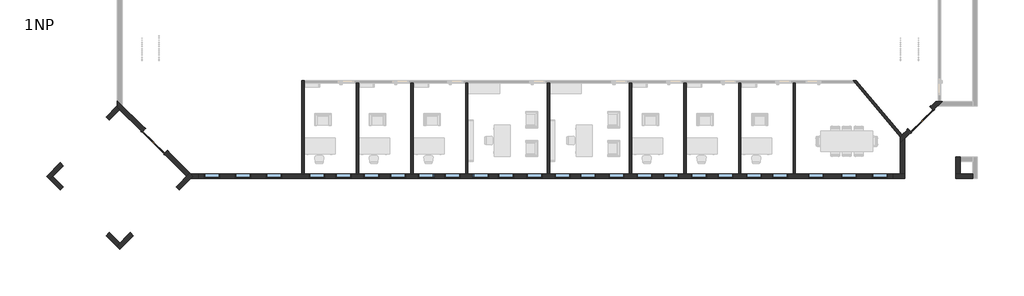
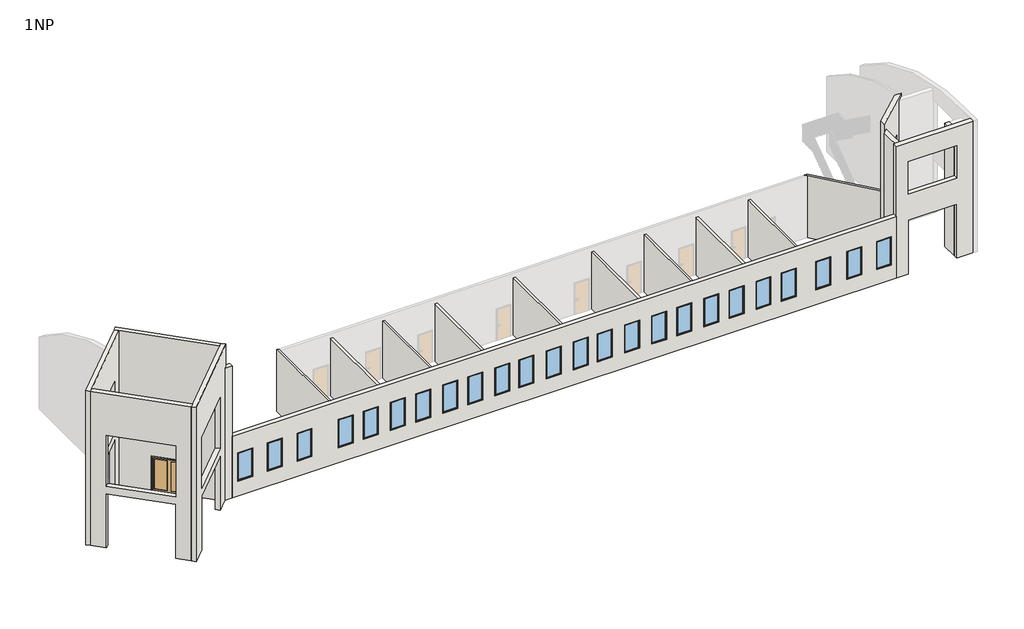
# One storey, part 1 of 2: 24 windows, 20 walls, 2 doors.
"""IFC4 building model written with IfcOpenShell, lengths in millimetres."""

from ifc_helpers import new_model, si_unit, frame, origin, origin_with_axes, place, context, project, spatial, polyline, circle_curve, ellipse_curve, outline, extrude, faceted_brep, transform, mapped, element, save
from ifc_brep_helpers import plane_surface, cylinder_surface, advanced_brep
from components import door_1800_x_1970mm_ce9160c6, door_1800_x_1970mm_3c2632e2, window_0915_x_1830mm_7ee91fd3

model = new_model("IFC4")

# Units and contexts
model_context = context("Model", 3, world=origin())
ifc_project = project(units=[si_unit("LENGTHUNIT", "METRE", prefix="MILLI")], contexts=[model_context])

# Site, building, storey
site = spatial("IfcSite", under=ifc_project)
building = spatial("IfcBuilding", under=site)
storey = spatial("IfcBuildingStorey", under=building, Name="1NP", Elevation=0.0)

# Doors
placement = place(None, origin())
door_1800_x_1970mm_shape = door_1800_x_1970mm_ce9160c6(model_context)
element("IfcDoor", 1, ObjectType="Dvoukridle prosklene : 1800 x 1970mm", at=placement, inside=storey, context=model_context, shape_type="MappedRepresentation", body=[
    mapped(door_1800_x_1970mm_shape, transform((-9492.0310093, -2706.151406, 0.0), x_axis=(-0.7071067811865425, 0.7071067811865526, 0.0), y_axis=(-0.7071067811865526, -0.7071067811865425, 0.0), z_axis=(0.0, 0.0, 1.0))),
])
door_1800_x_1970mm_2_shape = door_1800_x_1970mm_3c2632e2(model_context)
element("IfcDoor", 2, ObjectType="Dvoukridle prosklene : 1800 x 1970mm", at=placement, inside=storey, context=model_context, shape_type="MappedRepresentation", body=[
    mapped(door_1800_x_1970mm_2_shape, transform((35397.5898577, -1433.3591998, 0.0), x_axis=(0.7071067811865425, 0.7071067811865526, 0.0), y_axis=(-0.7071067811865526, 0.7071067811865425, 0.0), z_axis=(0.0, 0.0, 1.0))),
])

# Walls
element("IfcWall", 3, ObjectType="Exterior - EIFS on Mtl. Stud", at=placement, inside=storey, context=model_context, shape_type="AdvancedBrep", body=[
    advanced_brep(
    [(38455.6755273, -4624.9448694, 0.0), (37722.6755273, -4624.9448694, 0.0), (37455.6755273, -4624.9448694, 0.0), (37455.6755273, -4624.9448694, 3500.0), (34472.6755273, -4624.9448694, 3500.0), (34472.6755273, -4624.9448694, 0.0), (34205.6755273, -4624.9448694, 0.0), (33755.6755273, -4624.9448694, 0.0), (33755.6755273, -4624.9448694, 4000.0), (33755.6755273, -4624.9448694, 8000.0), (33755.6755273, -4624.9448694, 8556.4380679), (38455.6755273, -4624.9448694, 8556.4380679), (37455.6755273, -4624.9448694, 7300.0), (34472.6755273, -4624.9448694, 7300.0), (34472.6755273, -4624.9448694, 5200.0), (37455.6755273, -4624.9448694, 5200.0), (38455.6755273, -4891.9448694, 0.0), (38455.6755273, -4891.9448694, 8541.7849302), (33755.6755273, -4891.9448694, 8541.7849302), (33755.6755273, -4891.9448694, 8000.0), (33755.6755273, -4891.9448694, 4000.0), (33755.6755273, -4891.9448694, 0.0), (34472.6755273, -4891.9448694, 0.0), (34472.6755273, -4891.9448694, 3500.0), (37455.6755273, -4891.9448694, 3500.0), (37455.6755273, -4891.9448694, 0.0), (37455.6755273, -4891.9448694, 7300.0), (37455.6755273, -4891.9448694, 5200.0), (34472.6755273, -4891.9448694, 5200.0), (34472.6755273, -4891.9448694, 7300.0)],
    [
        (0, 1),
        (1, 2),
        (2, 3),
        (3, 4),
        (4, 5),
        (5, 6),
        (6, 7),
        (7, 8),
        (8, 9),
        (9, 10),
        (10, 11),
        (11, 0),
        (12, 13),
        (13, 14),
        (14, 15),
        (15, 12),
        (16, 17),
        (17, 18),
        (18, 19),
        (19, 20),
        (20, 21),
        (21, 22),
        (22, 23),
        (23, 24),
        (24, 25),
        (25, 16),
        (26, 27),
        (27, 28),
        (28, 29),
        (29, 26),
        (0, 16),
        (25, 2),
        (3, 24),
        (23, 4),
        (22, 5),
        (21, 7),
        (12, 26),
        (29, 13),
        (14, 28),
        (27, 15),
        (18, 10, circle_curve(frame((33755.6755273, -3782.5530793, -9232.9575956), z_axis=(-1.0, 0.0, 0.0), x_axis=(0.0, -1.0, 0.0)), 17809.3296337)),
        (11, 17, circle_curve(frame((38455.6755273, -3782.5530793, -9232.9575956), z_axis=(1.0, 0.0, 0.0), x_axis=(0.0, -1.0, 0.0)), 17809.3296337)),
    ],
    [
        plane_surface(frame((12455.6755273, -4624.9448694, 0.0), z_axis=(0.0, 1.0, 0.0), x_axis=(-1.0, 0.0, 0.0))),
        plane_surface(frame((12455.6755273, -4891.9448694, 0.0), z_axis=(0.0, -1.0, 0.0), x_axis=(1.0, 0.0, 0.0))),
        plane_surface(frame((38589.1755273, -4624.9448694, 0.0), z_axis=(0.0, 0.0, -1.0), x_axis=(0.0, -1.0, 0.0))),
        plane_surface(frame((37589.1755273, -4624.9448694, 3500.0), z_axis=(0.0, 0.0, -1.0), x_axis=(0.0, -1.0, 0.0))),
        plane_surface(frame((34472.6755273, -4624.9448694, 3500.0), z_axis=(1.0, 0.0, 0.0), x_axis=(0.0, -1.0, 0.0))),
        plane_surface(frame((34472.6755273, -4624.9448694, 0.0), z_axis=(0.0, 0.0, -1.0), x_axis=(0.0, -1.0, 0.0))),
        plane_surface(frame((37589.1755273, -4624.9448694, 7300.0), z_axis=(0.0, 0.0, -1.0), x_axis=(0.0, -1.0, 0.0))),
        plane_surface(frame((34339.1755273, -4624.9448694, 5200.0), z_axis=(0.0, 0.0, 1.0), x_axis=(0.0, -1.0, 0.0))),
        plane_surface(frame((33755.6755273, -4624.9448694, 0.0), z_axis=(-1.0, 0.0, 0.0), x_axis=(0.0, -1.0, 0.0))),
        plane_surface(frame((34472.6755273, -4758.4448694, 0.0), z_axis=(1.0, 0.0, 0.0), x_axis=(0.0, 1.0, 0.0))),
        plane_surface(frame((37455.6755273, -4758.4448694, 0.0), z_axis=(-1.0, 0.0, 0.0), x_axis=(0.0, -1.0, 0.0))),
        plane_surface(frame((38455.6755273, 5741.5551306, 0.0), z_axis=(1.0, 0.0, 0.0), x_axis=(0.0, -1.0, 0.0))),
        cylinder_surface(frame((39922.6755273, -3782.5530793, -9232.9575956), z_axis=(1.0, 0.0, 0.0), x_axis=(0.0, -1.0, 0.0)), 17809.3296337),
    ],
    [
        (0, [[1, 2, 3, 4, 5, 6, 7, 8, 9, 10, 11, 12], [13, 14, 15, 16]]),
        (1, [[17, 18, 19, 20, 21, 22, 23, 24, 25, 26], [27, 28, 29, 30]]),
        (2, [[-2, -1, 31, -26, 32]]),
        (3, [[-4, 33, -24, 34]]),
        (4, [[-5, -34, -23, 35]]),
        (5, [[-7, -6, -35, -22, 36]]),
        (6, [[-13, 37, -30, 38]]),
        (7, [[-15, 39, -28, 40]]),
        (8, [[-36, -21, -20, -19, 41, -10, -9, -8]]),
        (9, [[-14, -38, -29, -39]]),
        (10, [[-3, -32, -25, -33]]),
        (10, [[-16, -40, -27, -37]]),
        (11, [[-12, 42, -17, -31]]),
        (12, [[-11, -41, -18, -42]]),
    ],
),
])
element("IfcWall", 4, ObjectType="Exterior - EIFS on Mtl. Stud", at=placement, inside=storey, context=model_context, shape_type="AdvancedBrep", body=[
    advanced_brep(
    [(-6943.1051418, -4624.9448694, 0.0), (-7387.8076313, -4624.9448694, 0.0), (-7387.8076313, -4624.9448694, 8556.4380679), (-6943.1051418, -4624.9448694, 8556.4380679), (-6943.1051418, -4891.9448694, 0.0), (-6943.1051418, -4891.9448694, 8541.7849302), (-7387.8076313, -4891.9448694, 8541.7849302), (-7387.8076313, -4891.9448694, 0.0), (-7254.3076313, -4758.4448694, 0.0), (-7254.3076313, -4758.4448694, 8549.6141311)],
    [
        (0, 1),
        (1, 2),
        (2, 3),
        (3, 0),
        (4, 5),
        (5, 6),
        (6, 7),
        (7, 4),
        (0, 4),
        (7, 8),
        (8, 1),
        (3, 5, circle_curve(frame((-6943.1051418, -3782.5530793, -9232.9575956), z_axis=(1.0, 0.0, 0.0), x_axis=(0.0, -1.0, 0.0)), 17809.3296337)),
        (8, 9),
        (9, 2, ellipse_curve(frame((-8230.1994214, -3782.5530793, -9232.9575956), z_axis=(-0.7071067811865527, -0.7071067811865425, 0.0), x_axis=(0.7071067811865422, -0.7071067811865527, 0.0)), 25186.1955048, 17809.3296337)),
        (6, 9, ellipse_curve(frame((-6278.4158411, -3782.5530793, -9232.9575956), z_axis=(-0.7071067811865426, 0.7071067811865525, 0.0), x_axis=(0.7071067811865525, 0.7071067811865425, 0.0)), 25186.1955048, 17809.3296337)),
    ],
    [
        plane_surface(frame((12455.6755273, -4624.9448694, 0.0), z_axis=(0.0, 1.0, 0.0), x_axis=(-1.0, 0.0, 0.0))),
        plane_surface(frame((12455.6755273, -4891.9448694, 0.0), z_axis=(0.0, -1.0, 0.0), x_axis=(1.0, 0.0, 0.0))),
        plane_surface(frame((-6943.1051418, -4624.9448694, 0.0), z_axis=(0.0, 0.0, -1.0), x_axis=(0.0, -1.0, 0.0))),
        plane_surface(frame((-6943.1051418, -4624.9448694, 4000.0), z_axis=(1.0, 0.0, 0.0), x_axis=(0.0, -1.0, 0.0))),
        plane_surface(frame((-9352.1166743, -2660.6358263, -427.8219034), z_axis=(-0.7071067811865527, -0.7071067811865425, 0.0), x_axis=(0.7071067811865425, -0.7071067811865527, 0.0))),
        plane_surface(frame((-9352.1166743, -6856.2539125, -427.8219034), z_axis=(-0.7071067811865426, 0.7071067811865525, 0.0), x_axis=(-0.7071067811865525, -0.7071067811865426, 0.0))),
        cylinder_surface(frame((39922.6755273, -3782.5530793, -9232.9575956), z_axis=(1.0, 0.0, 0.0), x_axis=(0.0, -1.0, 0.0)), 17809.3296337),
    ],
    [
        (0, [[1, 2, 3, 4]]),
        (1, [[5, 6, 7, 8]]),
        (2, [[-1, 9, -8, 10, 11]]),
        (3, [[-4, 12, -5, -9]]),
        (4, [[-2, -11, 13, 14]]),
        (5, [[-10, -7, 15, -13]]),
        (6, [[-3, -14, -15, -6, -12]]),
    ],
),
])
element("IfcWall", 5, ObjectType="Exterior - EIFS on Mtl. Stud", at=placement, inside=storey, context=model_context, shape_type="Brep", body=[
    faceted_brep([(37722.6755273, -4624.9448694, 8000.0), (37722.6755273, -4624.9448694, 0.0), (37722.6755273, -3891.9448694, 0.0), (37722.6755273, -3624.9448694, 0.0), (37722.6755273, -3624.9448694, 8000.0), (37722.6755273, -3891.9448694, 8000.0), (37455.6755273, -4624.9448694, 0.0), (37455.6755273, -4624.9448694, 3500.0), (37455.6755273, -4624.9448694, 5200.0), (37455.6755273, -4624.9448694, 7300.0), (37455.6755273, -4624.9448694, 8000.0), (37455.6755273, -3624.9448694, 8000.0), (37455.6755273, -3624.9448694, 0.0)], [[[0, 1, 2, 3, 4, 5]], [[6, 7, 8, 9, 10, 11, 12]], [[3, 2, 1, 6, 12]], [[0, 5, 4, 11, 10]], [[4, 3, 12, 11]], [[0, 10, 9, 8, 7, 6, 1]]]),
])
element("IfcWall", 6, ObjectType="Exterior - EIFS on Mtl. Stud", at=placement, inside=storey, context=model_context, shape_type="AdvancedBrep", body=[
    advanced_brep(
    [(36270.5742736, -374.9448694, 0.0), (35951.8776052, -693.6415378, 0.0), (35951.8776052, -693.6415378, 2134.0), (34657.8721956, -1987.6469473, 2134.0), (34657.8721956, -1987.6469473, 0.0), (34302.1897841, -2343.3293589, 0.0), (34205.6755273, -2439.8436157, 0.0), (34205.6755273, -2439.8436157, 4000.0), (34205.6755273, -2439.8436157, 8000.0), (34205.6755273, -2439.8436157, 8525.6840557), (36270.5742736, -374.9448694, 8247.3292525), (35823.8290879, -821.6900551, 4000.0), (35823.8290879, -821.6900551, 6134.0), (34529.8236783, -2115.6954646, 6134.0), (34529.8236783, -2115.6954646, 4000.0), (36140.6751158, -882.4390484, 2134.0), (36140.6751158, -882.4390484, 0.0), (36381.1692947, -641.9448694, 0.0), (36648.1692947, -374.9448694, 0.0), (36648.1692947, -374.9448694, 8000.0), (36648.1692947, -374.9448694, 8247.3292525), (34205.6755273, -2817.4386368, 8550.2023068), (34205.6755273, -2817.4386368, 8000.0), (34205.6755273, -2817.4386368, 0.0), (34472.6755273, -2550.4386368, 0.0), (34846.6697062, -2176.4444579, 0.0), (34846.6697062, -2176.4444579, 2134.0), (36012.6265985, -1010.4875656, 4000.0), (34718.6211889, -2304.4929752, 4000.0), (34718.6211889, -2304.4929752, 6134.0), (36012.6265985, -1010.4875656, 6134.0), (36419.9255273, -374.9448694, 0.0), (36558.4255273, -374.9448694, 0.0), (34205.6755273, -2443.7758967, 0.0), (36419.9255273, -374.9448694, 8247.3292525), (36558.4255273, -374.9448694, 8247.3292525)],
    [
        (0, 1),
        (1, 2),
        (2, 3),
        (3, 4),
        (4, 5),
        (5, 6),
        (6, 7),
        (7, 8),
        (8, 9),
        (9, 10, ellipse_curve(frame((32862.9660637, -3782.5530793, -9232.9575956), z_axis=(-0.7071067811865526, 0.7071067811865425, 0.0), x_axis=(0.7071067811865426, 0.7071067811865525, 0.0)), 25186.1955048, 17809.3296337)),
        (10, 0),
        (11, 12),
        (12, 13),
        (13, 14),
        (14, 11),
        (15, 16),
        (16, 17),
        (17, 18),
        (18, 19),
        (19, 20),
        (20, 21, ellipse_curve(frame((33240.5610849, -3782.5530793, -9232.9575956), z_axis=(0.7071067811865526, -0.7071067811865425, 0.0), x_axis=(0.7071067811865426, 0.7071067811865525, 0.0)), 25186.1955048, 17809.3296337)),
        (21, 22),
        (22, 23),
        (23, 24),
        (24, 25),
        (25, 26),
        (26, 15),
        (27, 28),
        (28, 29),
        (29, 30),
        (30, 27),
        (16, 1),
        (0, 31),
        (31, 32),
        (32, 18),
        (23, 33),
        (33, 6),
        (4, 25),
        (10, 34),
        (34, 35),
        (35, 20),
        (21, 9, circle_curve(frame((34205.6755273, -3782.5530793, -9232.9575956), z_axis=(-1.0, 0.0, 0.0), x_axis=(0.0, -1.0, 0.0)), 17809.3296337)),
        (15, 2),
        (26, 3),
        (27, 11),
        (14, 28),
        (13, 29),
        (12, 30),
    ],
    [
        plane_surface(frame((38416.1447376, 1770.6255947, 0.0), z_axis=(-0.7071067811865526, 0.7071067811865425, 0.0), x_axis=(-0.7071067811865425, -0.7071067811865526, 0.0))),
        plane_surface(frame((38604.9422482, 1581.8280841, 0.0), z_axis=(0.7071067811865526, -0.7071067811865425, 0.0), x_axis=(0.7071067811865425, 0.7071067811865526, 0.0))),
        plane_surface(frame((36231.4730288, -414.0461141, 0.0), z_axis=(0.0, 0.0, -1.0), x_axis=(0.7071067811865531, -0.707106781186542, 0.0))),
        plane_surface(frame((38455.6755273, -374.9448694, 0.0), z_axis=(0.0, 1.0, 0.0), x_axis=(-1.0, 0.0, 0.0))),
        plane_surface(frame((34205.6755273, -4758.4448694, 0.0), z_axis=(-1.0, 0.0, 0.0), x_axis=(0.0, -1.0, 0.0))),
        cylinder_surface(frame((39922.6755273, -3782.5530793, -9232.9575956), z_axis=(1.0, 0.0, 0.0), x_axis=(0.0, -1.0, 0.0)), 17809.3296337),
        plane_surface(frame((35951.8776052, -693.6415378, 0.0), z_axis=(-0.7071067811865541, -0.7071067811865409, 0.0), x_axis=(0.7071067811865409, -0.7071067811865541, 0.0))),
        plane_surface(frame((35951.8776052, -693.6415378, 2134.0), z_axis=(0.0, 0.0, -1.0), x_axis=(0.7071067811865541, -0.7071067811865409, 0.0))),
        plane_surface(frame((34657.8721956, -1987.6469473, 2134.0), z_axis=(0.707106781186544, 0.7071067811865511, 0.0), x_axis=(0.7071067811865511, -0.707106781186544, 0.0))),
        plane_surface(frame((36012.6265985, -1010.4875656, 4000.0), z_axis=(0.0, 0.0, 1.0), x_axis=(-0.7071067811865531, 0.707106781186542, 0.0))),
        plane_surface(frame((34718.6211889, -2304.4929752, 4000.0), z_axis=(0.707106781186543, 0.7071067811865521, 0.0), x_axis=(-0.7071067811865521, 0.707106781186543, 0.0))),
        plane_surface(frame((34718.6211889, -2304.4929752, 6134.0), z_axis=(0.0, 0.0, -1.0000000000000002), x_axis=(-0.707106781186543, 0.7071067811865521, 0.0))),
        plane_surface(frame((36012.6265985, -1010.4875656, 6134.0), z_axis=(-0.707106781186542, -0.7071067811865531, 0.0), x_axis=(-0.7071067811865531, 0.707106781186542, 0.0))),
    ],
    [
        (0, [[1, 2, 3, 4, 5, 6, 7, 8, 9, 10, 11], [12, 13, 14, 15]]),
        (1, [[16, 17, 18, 19, 20, 21, 22, 23, 24, 25, 26, 27], [28, 29, 30, 31]]),
        (2, [[-18, -17, 32, -1, 33, 34, 35]]),
        (2, [[-25, -24, 36, 37, -6, -5, 38]]),
        (3, [[-11, 39, 40, 41, -20, -19, -35, -34, -33]]),
        (4, [[-37, -36, -23, -22, 42, -9, -8, -7]]),
        (5, [[-10, -42, -21, -41, -40, -39]]),
        (6, [[-2, -32, -16, 43]]),
        (7, [[-3, -43, -27, 44]]),
        (8, [[-4, -44, -26, -38]]),
        (9, [[-28, 45, -15, 46]]),
        (10, [[-29, -46, -14, 47]]),
        (11, [[-30, -47, -13, 48]]),
        (12, [[-31, -48, -12, -45]]),
    ],
),
])
element("IfcWall", 7, ObjectType="Exterior - EIFS on Mtl. Stud", at=placement, inside=storey, context=model_context, shape_type="Brep", body=[
    faceted_brep([(34472.6755273, -4624.9448694, 8000.0), (34472.6755273, -4624.9448694, 7300.0), (34472.6755273, -4624.9448694, 5200.0), (34472.6755273, -4624.9448694, 3500.0), (34472.6755273, -4624.9448694, 0.0), (34472.6755273, -2550.4386368, 0.0), (34472.6755273, -2550.4386368, 8000.0), (34205.6755273, -4624.9448694, 0.0), (34205.6755273, -4624.9448694, 8000.0), (34205.6755273, -2817.4386368, 8000.0), (34205.6755273, -2817.4386368, 0.0)], [[[0, 1, 2, 3, 4, 5, 6]], [[7, 8, 9, 10]], [[5, 4, 7, 10]], [[0, 6, 9, 8]], [[5, 10, 9, 6]], [[0, 8, 7, 4, 3, 2, 1]]]),
])
element("IfcWall", 8, ObjectType="Exterior - EIFS on Mtl. Stud", at=placement, inside=storey, context=model_context, shape_type="Brep", body=[
    faceted_brep([(33755.6755273, -4624.9448694, 0.0), (28058.4255273, -4624.9448694, 0.0), (27919.9255273, -4624.9448694, 0.0), (24858.4255273, -4624.9448694, 0.0), (24719.9255273, -4624.9448694, 0.0), (21658.4255273, -4624.9448694, 0.0), (21519.9255273, -4624.9448694, 0.0), (18458.4255273, -4624.9448694, 0.0), (18319.9255273, -4624.9448694, 0.0), (13658.4255273, -4624.9448694, 0.0), (13519.9255273, -4624.9448694, 0.0), (8858.4255273, -4624.9448694, 0.0), (8719.9255273, -4624.9448694, 0.0), (5658.4255273, -4624.9448694, 0.0), (5519.9255273, -4624.9448694, 0.0), (2458.4255273, -4624.9448694, 0.0), (2319.9255273, -4624.9448694, 0.0), (-741.5744727, -4624.9448694, 0.0), (-880.0744727, -4624.9448694, 0.0), (-6943.1051418, -4624.9448694, 0.0), (-6943.1051418, -4624.9448694, 4000.0), (-880.0744727, -4624.9448694, 4000.0), (-741.5744727, -4624.9448694, 4000.0), (33755.6755273, -4624.9448694, 4000.0), (33455.6755273, -4624.9448694, 970.0), (33455.6755273, -4624.9448694, 2800.0), (32540.6755273, -4624.9448694, 2800.0), (32540.6755273, -4624.9448694, 970.0), (31640.6755273, -4624.9448694, 970.0), (31640.6755273, -4624.9448694, 2800.0), (30725.6755273, -4624.9448694, 2800.0), (30725.6755273, -4624.9448694, 970.0), (29725.6755273, -4624.9448694, 970.0), (29725.6755273, -4624.9448694, 2800.0), (28810.6755273, -4624.9448694, 2800.0), (28810.6755273, -4624.9448694, 970.0), (-5680.0744727, -4624.9448694, 970.0), (-5680.0744727, -4624.9448694, 2800.0), (-6595.0744727, -4624.9448694, 2800.0), (-6595.0744727, -4624.9448694, 970.0), (-3865.0744727, -4624.9448694, 970.0), (-3865.0744727, -4624.9448694, 2800.0), (-4780.0744727, -4624.9448694, 2800.0), (-4780.0744727, -4624.9448694, 970.0), (-2050.0744727, -4624.9448694, 970.0), (-2050.0744727, -4624.9448694, 2800.0), (-2965.0744727, -4624.9448694, 2800.0), (-2965.0744727, -4624.9448694, 970.0), (473.4255273, -4624.9448694, 970.0), (473.4255273, -4624.9448694, 2800.0), (-441.5744727, -4624.9448694, 2800.0), (-441.5744727, -4624.9448694, 970.0), (2019.9255273, -4624.9448694, 970.0), (2019.9255273, -4624.9448694, 2800.0), (1104.9255273, -4624.9448694, 2800.0), (1104.9255273, -4624.9448694, 970.0), (16346.6755273, -4624.9448694, 970.0), (16346.6755273, -4624.9448694, 2800.0), (15431.6755273, -4624.9448694, 2800.0), (15431.6755273, -4624.9448694, 970.0), (14873.4255273, -4624.9448694, 970.0), (14873.4255273, -4624.9448694, 2800.0), (13958.4255273, -4624.9448694, 2800.0), (13958.4255273, -4624.9448694, 970.0), (18019.9255273, -4624.9448694, 970.0), (18019.9255273, -4624.9448694, 2800.0), (17104.9255273, -4624.9448694, 2800.0), (17104.9255273, -4624.9448694, 970.0), (3673.4255273, -4624.9448694, 970.0), (3673.4255273, -4624.9448694, 2800.0), (2758.4255273, -4624.9448694, 2800.0), (2758.4255273, -4624.9448694, 970.0), (5219.9255273, -4624.9448694, 970.0), (5219.9255273, -4624.9448694, 2800.0), (4304.9255273, -4624.9448694, 2800.0), (4304.9255273, -4624.9448694, 970.0), (6873.4255273, -4624.9448694, 970.0), (6873.4255273, -4624.9448694, 2800.0), (5958.4255273, -4624.9448694, 2800.0), (5958.4255273, -4624.9448694, 970.0), (8419.9255273, -4624.9448694, 970.0), (8419.9255273, -4624.9448694, 2800.0), (7504.9255273, -4624.9448694, 2800.0), (7504.9255273, -4624.9448694, 970.0), (19673.4255273, -4624.9448694, 970.0), (19673.4255273, -4624.9448694, 2800.0), (18758.4255273, -4624.9448694, 2800.0), (18758.4255273, -4624.9448694, 970.0), (21219.9255273, -4624.9448694, 970.0), (21219.9255273, -4624.9448694, 2800.0), (20304.9255273, -4624.9448694, 2800.0), (20304.9255273, -4624.9448694, 970.0), (22873.4255273, -4624.9448694, 970.0), (22873.4255273, -4624.9448694, 2800.0), (21958.4255273, -4624.9448694, 2800.0), (21958.4255273, -4624.9448694, 970.0), (24419.9255273, -4624.9448694, 970.0), (24419.9255273, -4624.9448694, 2800.0), (23504.9255273, -4624.9448694, 2800.0), (23504.9255273, -4624.9448694, 970.0), (26073.4255273, -4624.9448694, 970.0), (26073.4255273, -4624.9448694, 2800.0), (25158.4255273, -4624.9448694, 2800.0), (25158.4255273, -4624.9448694, 970.0), (27619.9255273, -4624.9448694, 970.0), (27619.9255273, -4624.9448694, 2800.0), (26704.9255273, -4624.9448694, 2800.0), (26704.9255273, -4624.9448694, 970.0), (10073.4255273, -4624.9448694, 970.0), (10073.4255273, -4624.9448694, 2800.0), (9158.4255273, -4624.9448694, 2800.0), (9158.4255273, -4624.9448694, 970.0), (11546.6755273, -4624.9448694, 970.0), (11546.6755273, -4624.9448694, 2800.0), (10631.6755273, -4624.9448694, 2800.0), (10631.6755273, -4624.9448694, 970.0), (13219.9255273, -4624.9448694, 970.0), (13219.9255273, -4624.9448694, 2800.0), (12304.9255273, -4624.9448694, 2800.0), (12304.9255273, -4624.9448694, 970.0), (-6943.1051418, -4891.9448694, 0.0), (33755.6755273, -4891.9448694, 0.0), (33755.6755273, -4891.9448694, 4000.0), (-6943.1051418, -4891.9448694, 4000.0), (33455.6755273, -4891.9448694, 2800.0), (33455.6755273, -4891.9448694, 970.0), (32540.6755273, -4891.9448694, 970.0), (32540.6755273, -4891.9448694, 2800.0), (31640.6755273, -4891.9448694, 2800.0), (31640.6755273, -4891.9448694, 970.0), (30725.6755273, -4891.9448694, 970.0), (30725.6755273, -4891.9448694, 2800.0), (29725.6755273, -4891.9448694, 2800.0), (29725.6755273, -4891.9448694, 970.0), (28810.6755273, -4891.9448694, 970.0), (28810.6755273, -4891.9448694, 2800.0), (-5680.0744727, -4891.9448694, 2800.0), (-5680.0744727, -4891.9448694, 970.0), (-6595.0744727, -4891.9448694, 970.0), (-6595.0744727, -4891.9448694, 2800.0), (-3865.0744727, -4891.9448694, 970.0), (-4780.0744727, -4891.9448694, 970.0), (-4780.0744727, -4891.9448694, 2800.0), (-3865.0744727, -4891.9448694, 2800.0), (-2050.0744727, -4891.9448694, 970.0), (-2965.0744727, -4891.9448694, 970.0), (-2965.0744727, -4891.9448694, 2800.0), (-2050.0744727, -4891.9448694, 2800.0), (473.4255273, -4891.9448694, 970.0), (-441.5744727, -4891.9448694, 970.0), (-441.5744727, -4891.9448694, 2800.0), (473.4255273, -4891.9448694, 2800.0), (2019.9255273, -4891.9448694, 970.0), (1104.9255273, -4891.9448694, 970.0), (1104.9255273, -4891.9448694, 2800.0), (2019.9255273, -4891.9448694, 2800.0), (16346.6755273, -4891.9448694, 970.0), (15431.6755273, -4891.9448694, 970.0), (15431.6755273, -4891.9448694, 2800.0), (16346.6755273, -4891.9448694, 2800.0), (14873.4255273, -4891.9448694, 970.0), (13958.4255273, -4891.9448694, 970.0), (13958.4255273, -4891.9448694, 2800.0), (14873.4255273, -4891.9448694, 2800.0), (18019.9255273, -4891.9448694, 970.0), (17104.9255273, -4891.9448694, 970.0), (17104.9255273, -4891.9448694, 2800.0), (18019.9255273, -4891.9448694, 2800.0), (3673.4255273, -4891.9448694, 970.0), (2758.4255273, -4891.9448694, 970.0), (2758.4255273, -4891.9448694, 2800.0), (3673.4255273, -4891.9448694, 2800.0), (5219.9255273, -4891.9448694, 970.0), (4304.9255273, -4891.9448694, 970.0), (4304.9255273, -4891.9448694, 2800.0), (5219.9255273, -4891.9448694, 2800.0), (6873.4255273, -4891.9448694, 970.0), (5958.4255273, -4891.9448694, 970.0), (5958.4255273, -4891.9448694, 2800.0), (6873.4255273, -4891.9448694, 2800.0), (8419.9255273, -4891.9448694, 970.0), (7504.9255273, -4891.9448694, 970.0), (7504.9255273, -4891.9448694, 2800.0), (8419.9255273, -4891.9448694, 2800.0), (19673.4255273, -4891.9448694, 970.0), (18758.4255273, -4891.9448694, 970.0), (18758.4255273, -4891.9448694, 2800.0), (19673.4255273, -4891.9448694, 2800.0), (21219.9255273, -4891.9448694, 970.0), (20304.9255273, -4891.9448694, 970.0), (20304.9255273, -4891.9448694, 2800.0), (21219.9255273, -4891.9448694, 2800.0), (22873.4255273, -4891.9448694, 970.0), (21958.4255273, -4891.9448694, 970.0), (21958.4255273, -4891.9448694, 2800.0), (22873.4255273, -4891.9448694, 2800.0), (24419.9255273, -4891.9448694, 970.0), (23504.9255273, -4891.9448694, 970.0), (23504.9255273, -4891.9448694, 2800.0), (24419.9255273, -4891.9448694, 2800.0), (26073.4255273, -4891.9448694, 970.0), (25158.4255273, -4891.9448694, 970.0), (25158.4255273, -4891.9448694, 2800.0), (26073.4255273, -4891.9448694, 2800.0), (27619.9255273, -4891.9448694, 970.0), (26704.9255273, -4891.9448694, 970.0), (26704.9255273, -4891.9448694, 2800.0), (27619.9255273, -4891.9448694, 2800.0), (10073.4255273, -4891.9448694, 970.0), (9158.4255273, -4891.9448694, 970.0), (9158.4255273, -4891.9448694, 2800.0), (10073.4255273, -4891.9448694, 2800.0), (11546.6755273, -4891.9448694, 970.0), (10631.6755273, -4891.9448694, 970.0), (10631.6755273, -4891.9448694, 2800.0), (11546.6755273, -4891.9448694, 2800.0), (13219.9255273, -4891.9448694, 970.0), (12304.9255273, -4891.9448694, 970.0), (12304.9255273, -4891.9448694, 2800.0), (13219.9255273, -4891.9448694, 2800.0)], [[[0, 1, 2, 3, 4, 5, 6, 7, 8, 9, 10, 11, 12, 13, 14, 15, 16, 17, 18, 19, 20, 21, 22, 23], [24, 25, 26, 27], [28, 29, 30, 31], [32, 33, 34, 35], [36, 37, 38, 39], [40, 41, 42, 43], [44, 45, 46, 47], [48, 49, 50, 51], [52, 53, 54, 55], [56, 57, 58, 59], [60, 61, 62, 63], [64, 65, 66, 67], [68, 69, 70, 71], [72, 73, 74, 75], [76, 77, 78, 79], [80, 81, 82, 83], [84, 85, 86, 87], [88, 89, 90, 91], [92, 93, 94, 95], [96, 97, 98, 99], [100, 101, 102, 103], [104, 105, 106, 107], [108, 109, 110, 111], [112, 113, 114, 115], [116, 117, 118, 119]], [[120, 121, 122, 123], [124, 125, 126, 127], [128, 129, 130, 131], [132, 133, 134, 135], [136, 137, 138, 139], [140, 141, 142, 143], [144, 145, 146, 147], [148, 149, 150, 151], [152, 153, 154, 155], [156, 157, 158, 159], [160, 161, 162, 163], [164, 165, 166, 167], [168, 169, 170, 171], [172, 173, 174, 175], [176, 177, 178, 179], [180, 181, 182, 183], [184, 185, 186, 187], [188, 189, 190, 191], [192, 193, 194, 195], [196, 197, 198, 199], [200, 201, 202, 203], [204, 205, 206, 207], [208, 209, 210, 211], [212, 213, 214, 215], [216, 217, 218, 219]], [[19, 18, 17, 16, 15, 14, 13, 12, 11, 10, 9, 8, 7, 6, 5, 4, 3, 2, 1, 0, 121, 120]], [[20, 19, 120, 123]], [[23, 22, 21, 20, 123, 122]], [[23, 122, 121, 0]], [[25, 24, 125, 124]], [[26, 25, 124, 127]], [[27, 26, 127, 126]], [[24, 27, 126, 125]], [[29, 28, 129, 128]], [[30, 29, 128, 131]], [[31, 30, 131, 130]], [[28, 31, 130, 129]], [[33, 32, 133, 132]], [[34, 33, 132, 135]], [[35, 34, 135, 134]], [[32, 35, 134, 133]], [[36, 137, 136, 37]], [[37, 136, 139, 38]], [[138, 39, 38, 139]], [[137, 36, 39, 138]], [[41, 40, 140, 143]], [[42, 41, 143, 142]], [[43, 42, 142, 141]], [[40, 43, 141, 140]], [[45, 44, 144, 147]], [[46, 45, 147, 146]], [[47, 46, 146, 145]], [[44, 47, 145, 144]], [[49, 48, 148, 151]], [[50, 49, 151, 150]], [[51, 50, 150, 149]], [[48, 51, 149, 148]], [[53, 52, 152, 155]], [[54, 53, 155, 154]], [[55, 54, 154, 153]], [[52, 55, 153, 152]], [[57, 56, 156, 159]], [[58, 57, 159, 158]], [[59, 58, 158, 157]], [[56, 59, 157, 156]], [[61, 60, 160, 163]], [[62, 61, 163, 162]], [[63, 62, 162, 161]], [[60, 63, 161, 160]], [[65, 64, 164, 167]], [[66, 65, 167, 166]], [[67, 66, 166, 165]], [[64, 67, 165, 164]], [[69, 68, 168, 171]], [[70, 69, 171, 170]], [[71, 70, 170, 169]], [[68, 71, 169, 168]], [[73, 72, 172, 175]], [[74, 73, 175, 174]], [[75, 74, 174, 173]], [[72, 75, 173, 172]], [[77, 76, 176, 179]], [[78, 77, 179, 178]], [[79, 78, 178, 177]], [[76, 79, 177, 176]], [[81, 80, 180, 183]], [[82, 81, 183, 182]], [[83, 82, 182, 181]], [[80, 83, 181, 180]], [[85, 84, 184, 187]], [[86, 85, 187, 186]], [[87, 86, 186, 185]], [[84, 87, 185, 184]], [[89, 88, 188, 191]], [[90, 89, 191, 190]], [[91, 90, 190, 189]], [[88, 91, 189, 188]], [[93, 92, 192, 195]], [[94, 93, 195, 194]], [[95, 94, 194, 193]], [[92, 95, 193, 192]], [[97, 96, 196, 199]], [[98, 97, 199, 198]], [[99, 98, 198, 197]], [[96, 99, 197, 196]], [[101, 100, 200, 203]], [[102, 101, 203, 202]], [[103, 102, 202, 201]], [[100, 103, 201, 200]], [[105, 104, 204, 207]], [[106, 105, 207, 206]], [[107, 106, 206, 205]], [[104, 107, 205, 204]], [[109, 108, 208, 211]], [[110, 109, 211, 210]], [[111, 110, 210, 209]], [[108, 111, 209, 208]], [[113, 112, 212, 215]], [[114, 113, 215, 214]], [[115, 114, 214, 213]], [[112, 115, 213, 212]], [[117, 116, 216, 219]], [[118, 117, 219, 218]], [[119, 118, 218, 217]], [[116, 119, 217, 216]]]),
])
element("IfcWall", 9, ObjectType="Exterior - EIFS on Mtl. Stud 2side", at=placement, inside=storey, context=model_context, shape_type="Brep", body=[
    faceted_brep([(-7443.1051418, -4569.6473588, 10000.0), (-7443.1051418, -4569.6473588, 0.0), (-7631.9026524, -4758.4448694, 0.0), (-8244.6106783, -5371.1528953, 0.0), (-8244.6106783, -5371.1528953, 3500.0), (-10931.6164468, -8058.1586638, 3500.0), (-10931.6164468, -8058.1586638, 0.0), (-11544.3244727, -8670.8666897, 0.0), (-11733.1219833, -8859.6642003, 0.0), (-11733.1219833, -8859.6642003, 10000.0), (-11544.3244727, -8670.8666897, 10000.0), (-7631.9026524, -4758.4448694, 10000.0), (-8244.6106783, -5371.1528953, 4000.0), (-8244.6106783, -5371.1528953, 7300.0), (-10931.6164468, -8058.1586638, 7300.0), (-10931.6164468, -8058.1586638, 4000.0), (-7254.3076313, -4758.4448694, 0.0), (-7254.3076313, -4758.4448694, 8549.6141311), (-7254.3076313, -4758.4448694, 10000.0), (-11544.3244727, -9048.4617109, 10000.0), (-11544.3244727, -9048.4617109, 0.0), (-10742.8189362, -8246.9561744, 0.0), (-10742.8189362, -8246.9561744, 3500.0), (-8055.8131677, -5559.9504059, 3500.0), (-8055.8131677, -5559.9504059, 0.0), (-7387.8076313, -4891.9448694, 0.0), (-8055.8131677, -5559.9504059, 4000.0), (-10742.8189362, -8246.9561744, 4000.0), (-10742.8189362, -8246.9561744, 7300.0), (-8055.8131677, -5559.9504059, 7300.0), (-7387.8076313, -4624.9448694, 0.0)], [[[0, 1, 2, 3, 4, 5, 6, 7, 8, 9, 10, 11], [12, 13, 14, 15]], [[16, 17, 18, 19, 20, 21, 22, 23, 24, 25], [26, 27, 28, 29]], [[3, 2, 1, 30, 16, 25, 24]], [[4, 3, 24, 23]], [[5, 4, 23, 22]], [[6, 5, 22, 21]], [[8, 7, 6, 21, 20]], [[0, 11, 10, 9, 19, 18]], [[13, 12, 26, 29]], [[14, 13, 29, 28]], [[15, 14, 28, 27]], [[12, 15, 27, 26]], [[0, 18, 17, 16, 30, 1]], [[9, 8, 20, 19]]]),
])
element("IfcWall", 10, ObjectType="Exterior - EIFS on Mtl. Stud 2side", at=placement, inside=storey, context=model_context, shape_type="Brep", body=[
    faceted_brep([(-7631.9026524, -4758.4448694, 10000.0), (-11544.3244727, -846.0230491, 10000.0), (-11733.1219833, -657.2255385, 10000.0), (-11733.1219833, -657.2255385, 8290.0514578), (-11677.8244727, -712.5230491, 8290.0514578), (-11677.8244727, -712.5230491, 0.0), (-11544.3244727, -846.0230491, 0.0), (-10235.1162674, -2155.2312545, 0.0), (-10235.1162674, -2155.2312545, 2134.0), (-8941.1108578, -3449.2366641, 2134.0), (-8941.1108578, -3449.2366641, 0.0), (-7631.9026524, -4758.4448694, 0.0), (-11544.3244727, -468.428028, 10000.0), (-7443.1051418, -4569.6473588, 10000.0), (-7443.1051418, -4569.6473588, 0.0), (-8752.3133472, -3260.4391535, 0.0), (-8752.3133472, -3260.4391535, 2134.0), (-10046.3187568, -1966.4337439, 2134.0), (-10046.3187568, -1966.4337439, 0.0), (-11410.8244727, -601.928028, 0.0), (-11677.8244727, -334.928028, 0.0), (-11677.8244727, -334.928028, 8239.4808006), (-11677.8244727, -334.928028, 8290.0514578), (-11544.3244727, -468.428028, 8290.0514578), (-11677.8244727, -601.928028, 0.0), (-11677.8244727, -601.928028, 8290.0514578)], [[[0, 1, 2, 3, 4, 5, 6, 7, 8, 9, 10, 11]], [[12, 13, 14, 15, 16, 17, 18, 19, 20, 21, 22, 23]], [[5, 24, 20, 19, 18, 7, 6]], [[14, 11, 10, 15]], [[2, 1, 0, 13, 12]], [[4, 3, 25]], [[5, 4, 25, 22, 21, 20, 24]], [[3, 2, 12, 23, 25]], [[23, 22, 25]], [[11, 14, 13, 0]], [[8, 7, 18, 17]], [[9, 8, 17, 16]], [[10, 9, 16, 15]]]),
])
element("IfcWall", 11, ObjectType="Exterior - EIFS on Mtl. Stud 2side", at=placement, inside=storey, context=model_context, shape_type="Brep", body=[
    faceted_brep([(-11677.8244727, -601.928028, 0.0), (-12345.8300092, -1269.9335644, 0.0), (-12345.8300092, -1269.9335644, 3500.0), (-15032.8357777, -3956.939333, 3500.0), (-15032.8357777, -3956.939333, 0.0), (-15834.3413142, -4758.4448694, 0.0), (-15834.3413142, -4758.4448694, 10000.0), (-11733.1219833, -657.2255385, 10000.0), (-11733.1219833, -657.2255385, 8290.0514578), (-11677.8244727, -601.928028, 8290.0514578), (-12345.8300092, -1269.9335644, 4000.0), (-12345.8300092, -1269.9335644, 7300.0), (-15032.8357777, -3956.939333, 7300.0), (-15032.8357777, -3956.939333, 4000.0), (-11544.3244727, -846.0230491, 0.0), (-11544.3244727, -846.0230491, 8290.0514578), (-11544.3244727, -846.0230491, 10000.0), (-15456.746293, -4758.4448694, 10000.0), (-15645.5438036, -4947.24238, 10000.0), (-15645.5438036, -4947.24238, 0.0), (-15456.746293, -4758.4448694, 0.0), (-14844.0382671, -4145.7368435, 0.0), (-14844.0382671, -4145.7368435, 3500.0), (-12157.0324986, -1458.731075, 3500.0), (-12157.0324986, -1458.731075, 0.0), (-12157.0324986, -1458.731075, 4000.0), (-14844.0382671, -4145.7368435, 4000.0), (-14844.0382671, -4145.7368435, 7300.0), (-12157.0324986, -1458.731075, 7300.0), (-11677.8244727, -712.5230491, 0.0), (-11677.8244727, -712.5230491, 8290.0514578)], [[[0, 1, 2, 3, 4, 5, 6, 7, 8, 9], [10, 11, 12, 13]], [[14, 15, 16, 17, 18, 19, 20, 21, 22, 23, 24], [25, 26, 27, 28]], [[1, 0, 29, 14, 24]], [[2, 1, 24, 23]], [[3, 2, 23, 22]], [[4, 3, 22, 21]], [[5, 4, 21, 20, 19]], [[7, 6, 18, 17, 16]], [[11, 10, 25, 28]], [[12, 11, 28, 27]], [[13, 12, 27, 26]], [[10, 13, 26, 25]], [[6, 5, 19, 18]], [[8, 30, 9]], [[0, 9, 30, 29]], [[30, 15, 14, 29]], [[8, 7, 16, 15, 30]]]),
])
element("IfcWall", 12, ObjectType="Exterior - EIFS on Mtl. Stud 2side", at=placement, inside=storey, context=model_context, shape_type="SweptSolid", body=[
    extrude(outline(polyline([(133.5, 0.0), (1000.0, 0.0), (1000.0, -3500.0), (4800.0, -3500.0), (4800.0, 0.0), (5666.5, 0.0), (5666.5, -10000.0), (133.5, -10000.0), (133.5, 0.0)]), holes=[polyline([(1000.0, -4000.0), (1000.0, -7300.0), (4800.0, -7300.0), (4800.0, -4000.0), (1000.0, -4000.0)])]), frame((-15739.9425589, -4852.8436247, 0.0), z_axis=(0.7071067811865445, 0.7071067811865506, 0.0), x_axis=(0.7071067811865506, -0.7071067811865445, 0.0)), (0.0, 0.0, 1.0), 267.0),
])
element("IfcWall", 13, ObjectType="Interior - 138mm Partition (1-hr)", at=placement, inside=storey, context=model_context, shape_type="Brep", body=[
    faceted_brep([(-741.5744727, -4624.9448694, 0.0), (-741.5744727, 722.3051306, 0.0), (-741.5744727, 860.8051306, 0.0), (-741.5744727, 860.8051306, 4000.0), (-741.5744727, 722.3051306, 4000.0), (-741.5744727, -4624.9448694, 4000.0), (-880.0744727, -4624.9448694, 0.0), (-880.0744727, -4624.9448694, 4000.0), (-880.0744727, 860.8051306, 4000.0), (-880.0744727, 860.8051306, 0.0)], [[[0, 1, 2, 3, 4, 5]], [[6, 7, 8, 9]], [[2, 1, 0, 6, 9]], [[5, 4, 3, 8, 7]], [[3, 2, 9, 8]], [[0, 5, 7, 6]]]),
])
element("IfcWall", 14, ObjectType="Interior - 138mm Partition (1-hr)", at=placement, inside=storey, context=model_context, shape_type="SweptSolid", body=[
    extrude(outline(polyline([(28058.4255273, 722.3051306), (28058.4255273, -4624.9448694), (27919.9255273, -4624.9448694), (27919.9255273, 722.3051306), (28058.4255273, 722.3051306)])), origin_with_axes(), (0.0, 0.0, 1.0), 3700.0),
])
element("IfcWall", 15, ObjectType="Interior - 138mm Partition (1-hr)", at=placement, inside=storey, context=model_context, shape_type="Brep", body=[
    faceted_brep([(34302.1897841, -2343.3293589, 0.0), (31613.6017157, 860.8051306, 0.0), (31613.6017157, 860.8051306, 4000.0), (34302.1897841, -2343.3293589, 4000.0), (34205.6755273, -2443.7758967, 0.0), (34205.6755273, -2443.7758967, 4000.0), (31549.018105, 722.3051306, 4000.0), (31432.8028061, 860.8051306, 4000.0), (31432.8028061, 860.8051306, 0.0), (31549.018105, 722.3051306, 0.0), (34205.6755273, -2439.8436157, 0.0), (34205.6755273, -2439.8436157, 4000.0)], [[[0, 1, 2, 3]], [[4, 5, 6, 7, 8, 9]], [[1, 0, 10, 4, 9, 8]], [[3, 2, 7, 6, 5, 11]], [[2, 1, 8, 7]], [[0, 3, 11, 10]], [[11, 5, 4, 10]]]),
])
element("IfcWall", 16, ObjectType="Interior - 138mm Partition (1-hr)", at=placement, inside=storey, context=model_context, shape_type="SweptSolid", body=[
    extrude(outline(polyline([(2458.4255273, 722.3051306), (2458.4255273, -4624.9448694), (2319.9255273, -4624.9448694), (2319.9255273, 722.3051306), (2458.4255273, 722.3051306)])), origin_with_axes(), (0.0, 0.0, 1.0), 3700.0),
])
element("IfcWall", 17, ObjectType="Interior - 138mm Partition (1-hr)", at=placement, inside=storey, context=model_context, shape_type="SweptSolid", body=[
    extrude(outline(polyline([(5658.4255273, 722.3051306), (5658.4255273, -4624.9448694), (5519.9255273, -4624.9448694), (5519.9255273, 722.3051306), (5658.4255273, 722.3051306)])), origin_with_axes(), (0.0, 0.0, 1.0), 3700.0),
])
element("IfcWall", 18, ObjectType="Interior - 138mm Partition (1-hr)", at=placement, inside=storey, context=model_context, shape_type="SweptSolid", body=[
    extrude(outline(polyline([(8858.4255273, 722.3051306), (8858.4255273, -4624.9448694), (8719.9255273, -4624.9448694), (8719.9255273, 722.3051306), (8858.4255273, 722.3051306)])), origin_with_axes(), (0.0, 0.0, 1.0), 3700.0),
])
element("IfcWall", 19, ObjectType="Interior - 138mm Partition (1-hr)", at=placement, inside=storey, context=model_context, shape_type="SweptSolid", body=[
    extrude(outline(polyline([(13658.4255273, 722.3051306), (13658.4255273, -4624.9448694), (13519.9255273, -4624.9448694), (13519.9255273, 722.3051306), (13658.4255273, 722.3051306)])), origin_with_axes(), (0.0, 0.0, 1.0), 3700.0),
])
element("IfcWall", 20, ObjectType="Interior - 138mm Partition (1-hr)", at=placement, inside=storey, context=model_context, shape_type="SweptSolid", body=[
    extrude(outline(polyline([(21658.4255273, 722.3051306), (21658.4255273, -4624.9448694), (21519.9255273, -4624.9448694), (21519.9255273, 722.3051306), (21658.4255273, 722.3051306)])), origin_with_axes(), (0.0, 0.0, 1.0), 3700.0),
])
element("IfcWall", 21, ObjectType="Interior - 138mm Partition (1-hr)", at=placement, inside=storey, context=model_context, shape_type="SweptSolid", body=[
    extrude(outline(polyline([(24858.4255273, 722.3051306), (24858.4255273, -4624.9448694), (24719.9255273, -4624.9448694), (24719.9255273, 722.3051306), (24858.4255273, 722.3051306)])), origin_with_axes(), (0.0, 0.0, 1.0), 3700.0),
])
element("IfcWall", 22, ObjectType="Interior - 138mm Partition (1-hr)", at=placement, inside=storey, context=model_context, shape_type="SweptSolid", body=[
    extrude(outline(polyline([(18458.4255273, 722.3051306), (18458.4255273, -4624.9448694), (18319.9255273, -4624.9448694), (18319.9255273, 722.3051306), (18458.4255273, 722.3051306)])), origin_with_axes(), (0.0, 0.0, 1.0), 3700.0),
])

# Windows
window_0915_x_1830mm_shape = window_0915_x_1830mm_7ee91fd3(model_context)
element("IfcWindow", 23, ObjectType="Pevne : 0915 x 1830mm", at=placement, inside=storey, context=model_context, shape_type="MappedRepresentation", body=[
    mapped(window_0915_x_1830mm_shape, transform((32998.1755273, -4745.4448694, 665.0), x_axis=(-1.0, 0.0, 0.0), y_axis=(0.0, -1.0, 0.0), z_axis=(0.0, 0.0, 1.0))),
])
element("IfcWindow", 24, ObjectType="Pevne : 0915 x 1830mm", at=placement, inside=storey, context=model_context, shape_type="MappedRepresentation", body=[
    mapped(window_0915_x_1830mm_shape, transform((31183.1755273, -4745.4448694, 665.0), x_axis=(-1.0, 0.0, 0.0), y_axis=(0.0, -1.0, 0.0), z_axis=(0.0, 0.0, 1.0))),
])
element("IfcWindow", 25, ObjectType="Pevne : 0915 x 1830mm", at=placement, inside=storey, context=model_context, shape_type="MappedRepresentation", body=[
    mapped(window_0915_x_1830mm_shape, transform((29268.1755273, -4745.4448694, 665.0), x_axis=(-1.0, 0.0, 0.0), y_axis=(0.0, -1.0, 0.0), z_axis=(0.0, 0.0, 1.0))),
])
element("IfcWindow", 26, ObjectType="Pevne : 0915 x 1830mm", at=placement, inside=storey, context=model_context, shape_type="MappedRepresentation", body=[
    mapped(window_0915_x_1830mm_shape, transform((-6137.5744727, -4745.4448694, 665.0), x_axis=(-1.0, 0.0, 0.0), y_axis=(0.0, -1.0, 0.0), z_axis=(0.0, 0.0, 1.0))),
])
element("IfcWindow", 27, ObjectType="Pevne : 0915 x 1830mm", at=placement, inside=storey, context=model_context, shape_type="MappedRepresentation", body=[
    mapped(window_0915_x_1830mm_shape, transform((-4322.5744727, -4745.4448694, 665.0), x_axis=(-1.0, 0.0, 0.0), y_axis=(0.0, -1.0, 0.0), z_axis=(0.0, 0.0, 1.0))),
])
element("IfcWindow", 28, ObjectType="Pevne : 0915 x 1830mm", at=placement, inside=storey, context=model_context, shape_type="MappedRepresentation", body=[
    mapped(window_0915_x_1830mm_shape, transform((-2507.5744727, -4745.4448694, 665.0), x_axis=(-1.0, 0.0, 0.0), y_axis=(0.0, -1.0, 0.0), z_axis=(0.0, 0.0, 1.0))),
])
element("IfcWindow", 29, ObjectType="Pevne : 0915 x 1830mm", at=placement, inside=storey, context=model_context, shape_type="MappedRepresentation", body=[
    mapped(window_0915_x_1830mm_shape, transform((15.9255273, -4745.4448694, 665.0), x_axis=(-1.0, 0.0, 0.0), y_axis=(0.0, -1.0, 0.0), z_axis=(0.0, 0.0, 1.0))),
])
element("IfcWindow", 30, ObjectType="Pevne : 0915 x 1830mm", at=placement, inside=storey, context=model_context, shape_type="MappedRepresentation", body=[
    mapped(window_0915_x_1830mm_shape, transform((1562.4255273, -4745.4448694, 665.0), x_axis=(-1.0, 0.0, 0.0), y_axis=(0.0, -1.0, 0.0), z_axis=(0.0, 0.0, 1.0))),
])
element("IfcWindow", 31, ObjectType="Pevne : 0915 x 1830mm", at=placement, inside=storey, context=model_context, shape_type="MappedRepresentation", body=[
    mapped(window_0915_x_1830mm_shape, transform((3215.9255273, -4745.4448694, 665.0), x_axis=(-1.0, 0.0, 0.0), y_axis=(0.0, -1.0, 0.0), z_axis=(0.0, 0.0, 1.0))),
])
element("IfcWindow", 32, ObjectType="Pevne : 0915 x 1830mm", at=placement, inside=storey, context=model_context, shape_type="MappedRepresentation", body=[
    mapped(window_0915_x_1830mm_shape, transform((4762.4255273, -4745.4448694, 665.0), x_axis=(-1.0, 0.0, 0.0), y_axis=(0.0, -1.0, 0.0), z_axis=(0.0, 0.0, 1.0))),
])
element("IfcWindow", 33, ObjectType="Pevne : 0915 x 1830mm", at=placement, inside=storey, context=model_context, shape_type="MappedRepresentation", body=[
    mapped(window_0915_x_1830mm_shape, transform((6415.9255273, -4745.4448694, 665.0), x_axis=(-1.0, 0.0, 0.0), y_axis=(0.0, -1.0, 0.0), z_axis=(0.0, 0.0, 1.0))),
])
element("IfcWindow", 34, ObjectType="Pevne : 0915 x 1830mm", at=placement, inside=storey, context=model_context, shape_type="MappedRepresentation", body=[
    mapped(window_0915_x_1830mm_shape, transform((7962.4255273, -4745.4448694, 665.0), x_axis=(-1.0, 0.0, 0.0), y_axis=(0.0, -1.0, 0.0), z_axis=(0.0, 0.0, 1.0))),
])
element("IfcWindow", 35, ObjectType="Pevne : 0915 x 1830mm", at=placement, inside=storey, context=model_context, shape_type="MappedRepresentation", body=[
    mapped(window_0915_x_1830mm_shape, transform((9615.9255273, -4745.4448694, 665.0), x_axis=(-1.0, 0.0, 0.0), y_axis=(0.0, -1.0, 0.0), z_axis=(0.0, 0.0, 1.0))),
])
element("IfcWindow", 36, ObjectType="Pevne : 0915 x 1830mm", at=placement, inside=storey, context=model_context, shape_type="MappedRepresentation", body=[
    mapped(window_0915_x_1830mm_shape, transform((11089.1755273, -4745.4448694, 665.0), x_axis=(-1.0, 0.0, 0.0), y_axis=(0.0, -1.0, 0.0), z_axis=(0.0, 0.0, 1.0))),
])
element("IfcWindow", 37, ObjectType="Pevne : 0915 x 1830mm", at=placement, inside=storey, context=model_context, shape_type="MappedRepresentation", body=[
    mapped(window_0915_x_1830mm_shape, transform((19215.9255273, -4745.4448694, 665.0), x_axis=(-1.0, 0.0, 0.0), y_axis=(0.0, -1.0, 0.0), z_axis=(0.0, 0.0, 1.0))),
])
element("IfcWindow", 38, ObjectType="Pevne : 0915 x 1830mm", at=placement, inside=storey, context=model_context, shape_type="MappedRepresentation", body=[
    mapped(window_0915_x_1830mm_shape, transform((20762.4255273, -4745.4448694, 665.0), x_axis=(-1.0, 0.0, 0.0), y_axis=(0.0, -1.0, 0.0), z_axis=(0.0, 0.0, 1.0))),
])
element("IfcWindow", 39, ObjectType="Pevne : 0915 x 1830mm", at=placement, inside=storey, context=model_context, shape_type="MappedRepresentation", body=[
    mapped(window_0915_x_1830mm_shape, transform((22415.9255273, -4745.4448694, 665.0), x_axis=(-1.0, 0.0, 0.0), y_axis=(0.0, -1.0, 0.0), z_axis=(0.0, 0.0, 1.0))),
])
element("IfcWindow", 40, ObjectType="Pevne : 0915 x 1830mm", at=placement, inside=storey, context=model_context, shape_type="MappedRepresentation", body=[
    mapped(window_0915_x_1830mm_shape, transform((23962.4255273, -4745.4448694, 665.0), x_axis=(-1.0, 0.0, 0.0), y_axis=(0.0, -1.0, 0.0), z_axis=(0.0, 0.0, 1.0))),
])
element("IfcWindow", 41, ObjectType="Pevne : 0915 x 1830mm", at=placement, inside=storey, context=model_context, shape_type="MappedRepresentation", body=[
    mapped(window_0915_x_1830mm_shape, transform((25615.9255273, -4745.4448694, 665.0), x_axis=(-1.0, 0.0, 0.0), y_axis=(0.0, -1.0, 0.0), z_axis=(0.0, 0.0, 1.0))),
])
element("IfcWindow", 42, ObjectType="Pevne : 0915 x 1830mm", at=placement, inside=storey, context=model_context, shape_type="MappedRepresentation", body=[
    mapped(window_0915_x_1830mm_shape, transform((27162.4255273, -4745.4448694, 665.0), x_axis=(-1.0, 0.0, 0.0), y_axis=(0.0, -1.0, 0.0), z_axis=(0.0, 0.0, 1.0))),
])
element("IfcWindow", 43, ObjectType="Pevne : 0915 x 1830mm", at=placement, inside=storey, context=model_context, shape_type="MappedRepresentation", body=[
    mapped(window_0915_x_1830mm_shape, transform((12762.4255273, -4745.4448694, 665.0), x_axis=(-1.0, 0.0, 0.0), y_axis=(0.0, -1.0, 0.0), z_axis=(0.0, 0.0, 1.0))),
])
element("IfcWindow", 44, ObjectType="Pevne : 0915 x 1830mm", at=placement, inside=storey, context=model_context, shape_type="MappedRepresentation", body=[
    mapped(window_0915_x_1830mm_shape, transform((14415.9255273, -4745.4448694, 665.0), x_axis=(-1.0, 0.0, 0.0), y_axis=(0.0, -1.0, 0.0), z_axis=(0.0, 0.0, 1.0))),
])
element("IfcWindow", 45, ObjectType="Pevne : 0915 x 1830mm", at=placement, inside=storey, context=model_context, shape_type="MappedRepresentation", body=[
    mapped(window_0915_x_1830mm_shape, transform((15889.1755273, -4745.4448694, 665.0), x_axis=(-1.0, 0.0, 0.0), y_axis=(0.0, -1.0, 0.0), z_axis=(0.0, 0.0, 1.0))),
])
element("IfcWindow", 46, ObjectType="Pevne : 0915 x 1830mm", at=placement, inside=storey, context=model_context, shape_type="MappedRepresentation", body=[
    mapped(window_0915_x_1830mm_shape, transform((17562.4255273, -4745.4448694, 665.0), x_axis=(-1.0, 0.0, 0.0), y_axis=(0.0, -1.0, 0.0), z_axis=(0.0, 0.0, 1.0))),
])

save(model, "model.ifc")
